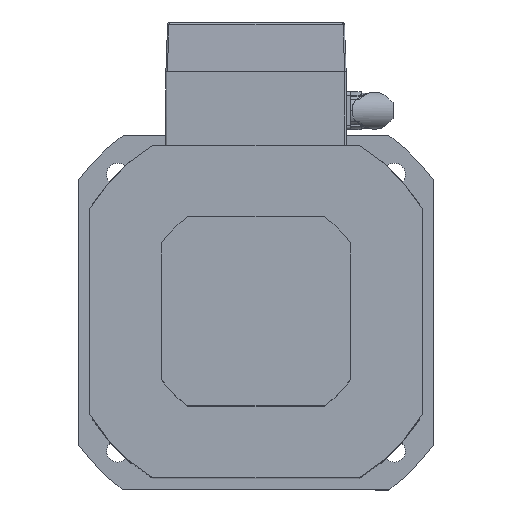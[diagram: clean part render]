
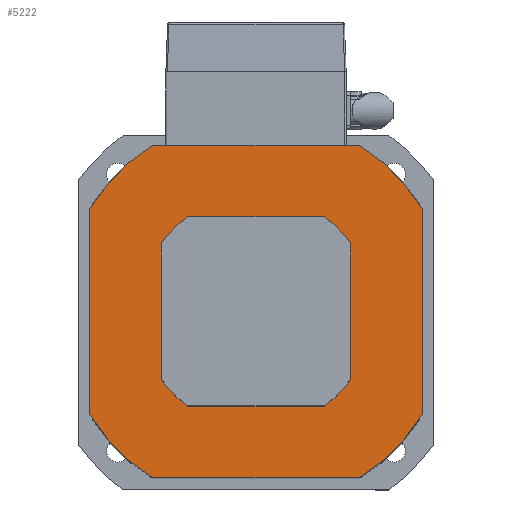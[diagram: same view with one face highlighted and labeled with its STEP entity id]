
A CAD part, top view. The second image highlights one B-rep face of the part: STEP entity #5222.
In plain terms, the highlighted planar face has unit normal (0, 0, 1).
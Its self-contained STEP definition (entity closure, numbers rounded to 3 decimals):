
#1056=PLANE('',#5557);
#1207=CIRCLE('',#5542,132.5);
#1209=CIRCLE('',#5546,132.5);
#1211=CIRCLE('',#5550,132.5);
#1213=CIRCLE('',#5556,132.5);
#1438=VECTOR('',#6242,1.);
#1442=VECTOR('',#6253,1.);
#1446=VECTOR('',#6264,1.);
#1448=VECTOR('',#6267,1.);
#1755=LINE('',#7712,#1438);
#1759=LINE('',#7724,#1442);
#1763=LINE('',#7736,#1446);
#1765=LINE('',#7740,#1448);
#2106=VERTEX_POINT('',#7703);
#2107=VERTEX_POINT('',#7705);
#2109=VERTEX_POINT('',#7711);
#2111=VERTEX_POINT('',#7717);
#2113=VERTEX_POINT('',#7723);
#2115=VERTEX_POINT('',#7729);
#2117=VERTEX_POINT('',#7735);
#2119=VERTEX_POINT('',#7741);
#2642=EDGE_CURVE('',#2107,#2106,#1207,.T.);
#2646=EDGE_CURVE('',#2106,#2109,#1755,.T.);
#2649=EDGE_CURVE('',#2109,#2111,#1209,.T.);
#2652=EDGE_CURVE('',#2111,#2113,#1759,.T.);
#2655=EDGE_CURVE('',#2113,#2115,#1211,.T.);
#2658=EDGE_CURVE('',#2115,#2117,#1763,.T.);
#2660=EDGE_CURVE('',#2119,#2107,#1765,.T.);
#2663=EDGE_CURVE('',#2117,#2119,#1213,.T.);
#3465=ORIENTED_EDGE('',*,*,#2658,.T.);
#3466=ORIENTED_EDGE('',*,*,#2663,.T.);
#3467=ORIENTED_EDGE('',*,*,#2660,.T.);
#3468=ORIENTED_EDGE('',*,*,#2642,.T.);
#3469=ORIENTED_EDGE('',*,*,#2646,.T.);
#3470=ORIENTED_EDGE('',*,*,#2649,.T.);
#3471=ORIENTED_EDGE('',*,*,#2652,.T.);
#3472=ORIENTED_EDGE('',*,*,#2655,.T.);
#4554=EDGE_LOOP('',(#3465,#3466,#3467,#3468,#3469,#3470,#3471,#3472));
#4904=FACE_BOUND('',#4554,.T.);
#5222=ADVANCED_FACE('',(#4904),#1056,.T.);
#5542=AXIS2_PLACEMENT_3D('',#7704,#6236,#6237);
#5546=AXIS2_PLACEMENT_3D('',#7718,#6248,#6249);
#5550=AXIS2_PLACEMENT_3D('',#7730,#6259,#6260);
#5556=AXIS2_PLACEMENT_3D('',#7746,#6274,#6275);
#5557=AXIS2_PLACEMENT_3D('',#7747,#6276,$);
#6236=DIRECTION('',(0.,0.,1.));
#6237=DIRECTION('',(132.5,0.,0.));
#6242=DIRECTION('',(1.,0.,0.));
#6248=DIRECTION('',(0.,0.,1.));
#6249=DIRECTION('',(132.5,0.,0.));
#6253=DIRECTION('',(0.,1.,0.));
#6259=DIRECTION('',(0.,0.,1.));
#6260=DIRECTION('',(132.5,0.,0.));
#6264=DIRECTION('',(-1.,0.,0.));
#6267=DIRECTION('',(0.,-1.,0.));
#6274=DIRECTION('',(0.,0.,1.));
#6275=DIRECTION('',(132.5,0.,0.));
#6276=DIRECTION('',(0.,0.,1.));
#7703=CARTESIAN_POINT('',(-70.,-112.5,0.));
#7704=CARTESIAN_POINT('',(0.,0.,0.));
#7705=CARTESIAN_POINT('',(-112.5,-70.,0.));
#7711=CARTESIAN_POINT('',(70.,-112.5,0.));
#7712=CARTESIAN_POINT('',(-70.,-112.5,0.));
#7717=CARTESIAN_POINT('',(112.5,-70.,0.));
#7718=CARTESIAN_POINT('',(0.,0.,0.));
#7723=CARTESIAN_POINT('',(112.5,70.,0.));
#7724=CARTESIAN_POINT('',(112.5,-70.,0.));
#7729=CARTESIAN_POINT('',(70.,112.5,0.));
#7730=CARTESIAN_POINT('',(0.,0.,0.));
#7735=CARTESIAN_POINT('',(-70.,112.5,0.));
#7736=CARTESIAN_POINT('',(70.,112.5,0.));
#7740=CARTESIAN_POINT('',(-112.5,70.,0.));
#7741=CARTESIAN_POINT('',(-112.5,70.,0.));
#7746=CARTESIAN_POINT('',(0.,0.,0.));
#7747=CARTESIAN_POINT('',(0.,0.,0.));
